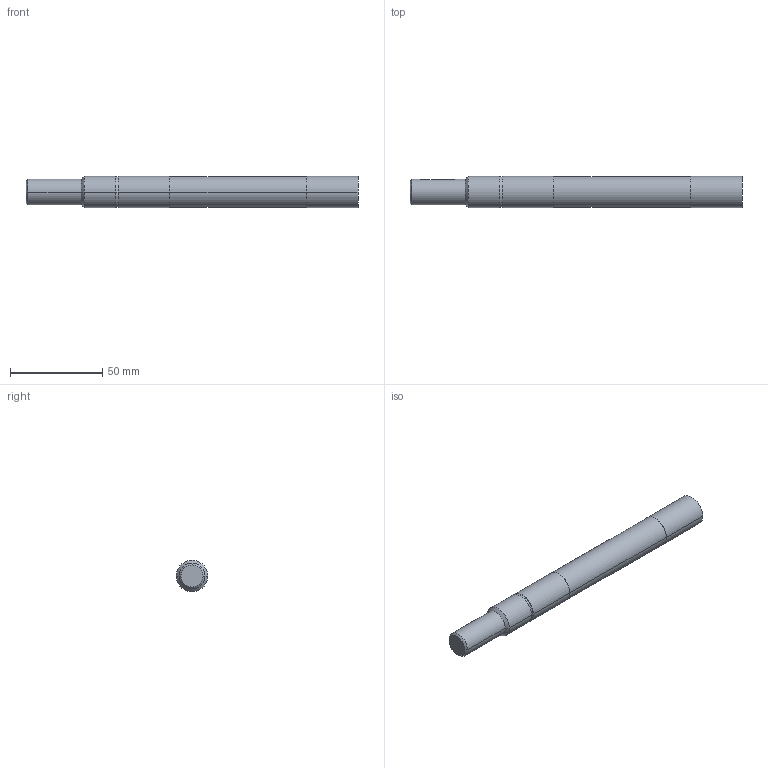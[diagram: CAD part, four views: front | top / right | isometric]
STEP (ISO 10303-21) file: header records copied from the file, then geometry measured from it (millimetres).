
FILE_DESCRIPTION (( 'STEP AP203' ), '1' );
FILE_NAME ('S4-17.STEP', '2002-08-16T10:50:13', ( '.' ), ( '.' ), 'SwSTEP 2.0', 'SolidWorks 2001340', '' );
FILE_SCHEMA (( 'CONFIG_CONTROL_DESIGN' ));
Length unit declared in the file: millimetre
Products named in the file (1): S4-17
Bounding box: 180 x 17 x 17 mm (x, y, z)
Volume: 37912.2 mm3; surface area: 9809.9 mm2
Topology: 1 solids, 1 shells, 26 faces, 55 edges, 34 vertices
Faces by surface type: cylinder 12, plane 8, cone 6
Entity records: 836 total; most frequent: CARTESIAN_POINT 182, DIRECTION 131, ORIENTED_EDGE 110, EDGE_CURVE 55, AXIS2_PLACEMENT_3D 53, VERTEX_POINT 34, EDGE_LOOP 29, FACE_OUTER_BOUND 26
